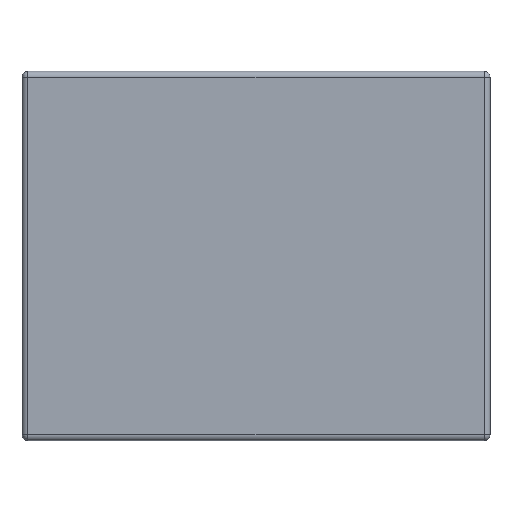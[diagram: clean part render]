
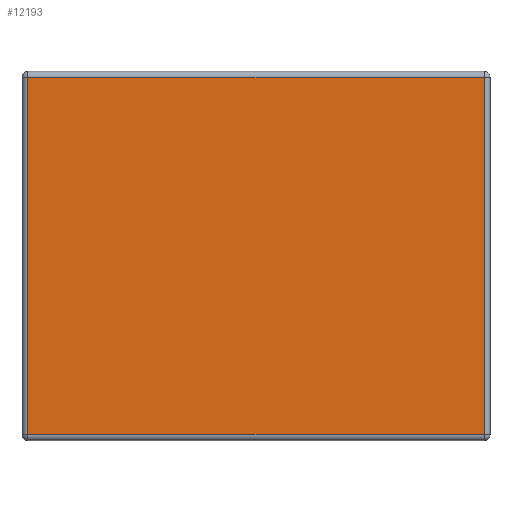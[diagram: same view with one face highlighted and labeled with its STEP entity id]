
A CAD part, front view. The second image highlights one B-rep face of the part: STEP entity #12193.
In plain terms, the highlighted planar face has unit normal (0, -1, 0).
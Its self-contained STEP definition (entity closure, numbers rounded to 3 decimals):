
#102 = LINE ( 'NONE', #7271, #500 ) ;
#500 = VECTOR ( 'NONE', #8503, 1000. ) ;
#791 = DIRECTION ( 'NONE',  ( 0., 0., -1. ) ) ;
#1558 = EDGE_CURVE ( 'NONE', #2745, #11332, #14360, .T. ) ;
#1969 = PLANE ( 'NONE',  #12513 ) ;
#2039 = ORIENTED_EDGE ( 'NONE', *, *, #3978, .T. ) ;
#2718 = VECTOR ( 'NONE', #9381, 1000. ) ;
#2745 = VERTEX_POINT ( 'NONE', #7495 ) ;
#3248 = ORIENTED_EDGE ( 'NONE', *, *, #4415, .T. ) ;
#3643 = CARTESIAN_POINT ( 'NONE',  ( -92.6, 0., 0. ) ) ;
#3978 = EDGE_CURVE ( 'NONE', #13518, #13160, #5730, .T. ) ;
#4299 = DIRECTION ( 'NONE',  ( -1., 0., 0. ) ) ;
#4415 = EDGE_CURVE ( 'NONE', #11332, #13518, #102, .T. ) ;
#5425 = VECTOR ( 'NONE', #11943, 1000. ) ;
#5730 = LINE ( 'NONE', #8145, #2718 ) ;
#6719 = DIRECTION ( 'NONE',  ( 0., -1., 0. ) ) ;
#6775 = CARTESIAN_POINT ( 'NONE',  ( 92.6, 0., -72.6 ) ) ;
#7271 = CARTESIAN_POINT ( 'NONE',  ( 0., 0., -72.6 ) ) ;
#7495 = CARTESIAN_POINT ( 'NONE',  ( -92.6, 0., 72.6 ) ) ;
#8145 = CARTESIAN_POINT ( 'NONE',  ( 92.6, 0., 75. ) ) ;
#8503 = DIRECTION ( 'NONE',  ( 1., 0., 0. ) ) ;
#8564 = EDGE_LOOP ( 'NONE', ( #3248, #2039, #15091, #14617 ) ) ;
#9193 = CARTESIAN_POINT ( 'NONE',  ( 0., 0., 0. ) ) ;
#9381 = DIRECTION ( 'NONE',  ( 0., 0., 1. ) ) ;
#10138 = CARTESIAN_POINT ( 'NONE',  ( 92.6, 0., 72.6 ) ) ;
#10541 = VECTOR ( 'NONE', #4299, 1000. ) ;
#11332 = VERTEX_POINT ( 'NONE', #15072 ) ;
#11943 = DIRECTION ( 'NONE',  ( 0., 0., -1. ) ) ;
#12193 = ADVANCED_FACE ( 'NONE', ( #12614 ), #1969, .T. ) ;
#12387 = CARTESIAN_POINT ( 'NONE',  ( -95., 0., 72.6 ) ) ;
#12513 = AXIS2_PLACEMENT_3D ( 'NONE', #9193, #6719, #791 ) ;
#12614 = FACE_OUTER_BOUND ( 'NONE', #8564, .T. ) ;
#13160 = VERTEX_POINT ( 'NONE', #10138 ) ;
#13518 = VERTEX_POINT ( 'NONE', #6775 ) ;
#13543 = LINE ( 'NONE', #12387, #10541 ) ;
#14360 = LINE ( 'NONE', #3643, #5425 ) ;
#14617 = ORIENTED_EDGE ( 'NONE', *, *, #1558, .T. ) ;
#14797 = EDGE_CURVE ( 'NONE', #13160, #2745, #13543, .T. ) ;
#15072 = CARTESIAN_POINT ( 'NONE',  ( -92.6, 0., -72.6 ) ) ;
#15091 = ORIENTED_EDGE ( 'NONE', *, *, #14797, .T. ) ;
